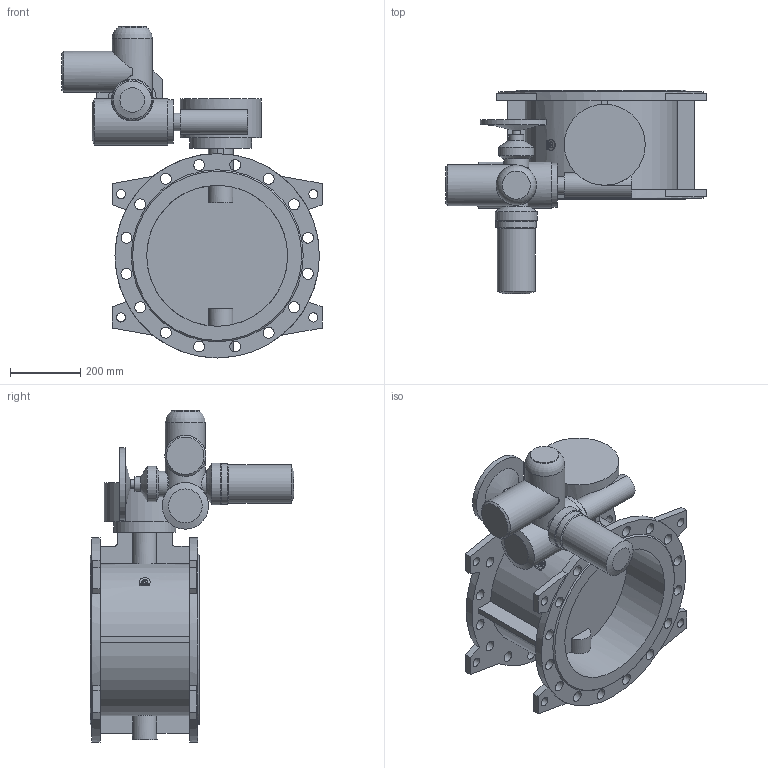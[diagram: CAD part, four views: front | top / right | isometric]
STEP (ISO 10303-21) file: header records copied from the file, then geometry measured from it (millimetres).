
FILE_DESCRIPTION(('STEP AP203'), '1');
FILE_NAME('Çàòâîð 023F.Z DN400 PN16 + ðåäóêòîð + MT903.À10', '', ('UNSPECIFIED'), ('UNSPECIFIED'), 'ASCON STEP Converter 1.6', 'ASCON Math Kernel', '');
FILE_SCHEMA(('CONFIG_CONTROL_DESIGN'));
Length unit declared in the file: millimetre
Bounding box: 739 x 578 x 942 mm (x, y, z)
Volume: 35111867.4 mm3; surface area: 2441955.3 mm2
Topology: 1 solids, 1 shells, 220 faces, 537 edges, 352 vertices
Faces by surface type: plane 109, cylinder 99, cone 11, torus 1
Full cylindrical faces by diameter (mm): 8.5 x4, 12 x4, 14 x4, 18 x4, 24 x1, 26 x8, 31 x32, 42 x1, 50 x1, 66 x1, 70 x2, 72 x1, 80 x1, 100 x1, 108 x1, 114 x1, 115 x1, 116 x1, 119 x1, 125 x1, 132 x1, 175 x1, 230 x1, 400 x2, 580 x2
Entity records: 10109 total; most frequent: CARTESIAN_POINT 3214, DIRECTION 1064, ORIENTED_EDGE 886, EDGE_CURVE 443, AXIS2_PLACEMENT_3D 435, EDGE_LOOP 426, VERTEX_POINT 351, FACE_BOUND 256
